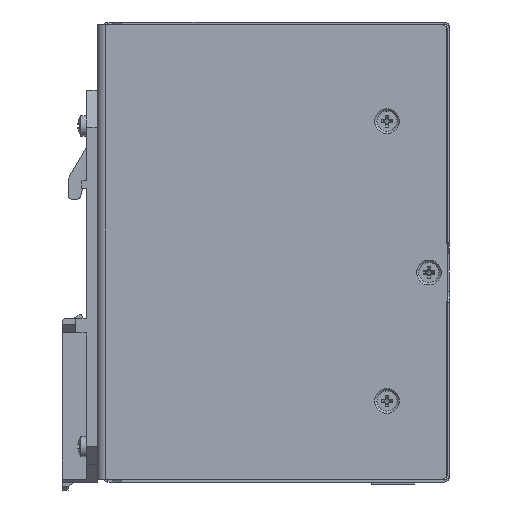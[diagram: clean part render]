
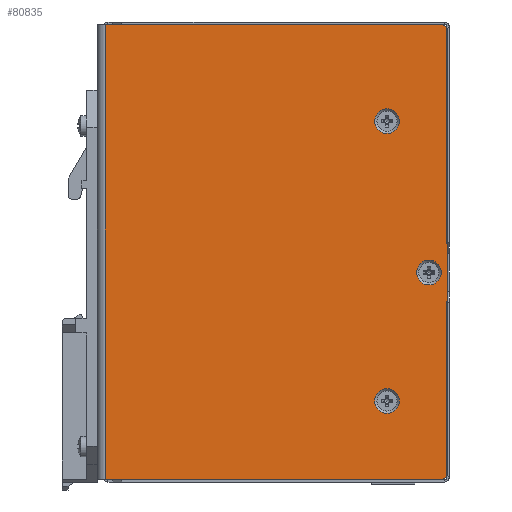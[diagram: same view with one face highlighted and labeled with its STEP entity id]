
A CAD part, left-side view. The second image highlights one B-rep face of the part: STEP entity #80835.
In plain terms, the highlighted planar face has unit normal (-1, 0, 0).
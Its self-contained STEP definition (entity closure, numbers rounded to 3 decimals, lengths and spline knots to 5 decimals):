
#1407=CIRCLE('',#86739,0.00152);
#1409=CIRCLE('',#86743,0.00152);
#1410=CIRCLE('',#86745,0.00336);
#1411=CIRCLE('',#86746,0.00336);
#1412=CIRCLE('',#86747,0.00336);
#23640=ORIENTED_EDGE('',*,*,#34806,.T.);
#23641=ORIENTED_EDGE('',*,*,#34807,.T.);
#23642=ORIENTED_EDGE('',*,*,#34808,.T.);
#23643=ORIENTED_EDGE('',*,*,#34803,.F.);
#23644=ORIENTED_EDGE('',*,*,#34805,.F.);
#23645=ORIENTED_EDGE('',*,*,#34793,.F.);
#23646=ORIENTED_EDGE('',*,*,#34809,.F.);
#23647=ORIENTED_EDGE('',*,*,#34810,.F.);
#23648=ORIENTED_EDGE('',*,*,#34811,.T.);
#23649=ORIENTED_EDGE('',*,*,#34797,.F.);
#23650=ORIENTED_EDGE('',*,*,#34800,.F.);
#34793=EDGE_CURVE('',#42251,#42249,#52810,.T.);
#34797=EDGE_CURVE('',#42255,#42253,#52814,.F.);
#34800=EDGE_CURVE('',#42257,#42255,#1407,.F.);
#34803=EDGE_CURVE('',#42259,#42257,#52818,.F.);
#34805=EDGE_CURVE('',#42249,#42259,#1409,.F.);
#34806=EDGE_CURVE('',#42260,#42260,#1410,.T.);
#34807=EDGE_CURVE('',#42261,#42261,#1411,.T.);
#34808=EDGE_CURVE('',#42262,#42262,#1412,.T.);
#34809=EDGE_CURVE('',#42263,#42251,#52819,.F.);
#34810=EDGE_CURVE('',#42264,#42263,#52820,.F.);
#34811=EDGE_CURVE('',#42264,#42253,#52821,.T.);
#42249=VERTEX_POINT('',#130338);
#42251=VERTEX_POINT('',#130342);
#42253=VERTEX_POINT('',#130347);
#42255=VERTEX_POINT('',#130351);
#42257=VERTEX_POINT('',#130357);
#42259=VERTEX_POINT('',#130363);
#42260=VERTEX_POINT('',#130370);
#42261=VERTEX_POINT('',#130372);
#42262=VERTEX_POINT('',#130374);
#42263=VERTEX_POINT('',#130376);
#42264=VERTEX_POINT('',#130378);
#52810=LINE('',#130343,#63365);
#52814=LINE('',#130352,#63369);
#52818=LINE('',#130364,#63373);
#52819=LINE('',#130375,#63374);
#52820=LINE('',#130377,#63375);
#52821=LINE('',#130379,#63376);
#63365=VECTOR('',#105992,1.);
#63369=VECTOR('',#105998,1.);
#63373=VECTOR('',#106010,1.);
#63374=VECTOR('',#106025,1.);
#63375=VECTOR('',#106026,1.);
#63376=VECTOR('',#106027,1.);
#68362=EDGE_LOOP('',(#23640));
#68363=EDGE_LOOP('',(#23641));
#68364=EDGE_LOOP('',(#23642));
#68365=EDGE_LOOP('',(#23643,#23644,#23645,#23646,#23647,#23648,#23649,#23650));
#73364=FACE_BOUND('',#68362,.T.);
#73365=FACE_BOUND('',#68363,.T.);
#73366=FACE_BOUND('',#68364,.T.);
#73367=FACE_BOUND('',#68365,.T.);
#76983=PLANE('',#86744);
#80835=ADVANCED_FACE('',(#73364,#73365,#73366,#73367),#76983,.T.);
#86739=AXIS2_PLACEMENT_3D('',#130358,#106004,#106005);
#86743=AXIS2_PLACEMENT_3D('',#130367,#106015,#106016);
#86744=AXIS2_PLACEMENT_3D('',#130368,#106017,#106018);
#86745=AXIS2_PLACEMENT_3D('',#130369,#106019,#106020);
#86746=AXIS2_PLACEMENT_3D('',#130371,#106021,#106022);
#86747=AXIS2_PLACEMENT_3D('',#130373,#106023,#106024);
#105992=DIRECTION('',(0.,-1.,0.));
#105998=DIRECTION('',(0.,-1.,0.));
#106004=DIRECTION('',(-1.,0.,0.));
#106005=DIRECTION('',(0.,-1.,0.));
#106010=DIRECTION('',(0.,0.,1.));
#106015=DIRECTION('',(-1.,0.,0.));
#106016=DIRECTION('',(0.,-1.,0.));
#106017=DIRECTION('',(-1.,0.,0.));
#106018=DIRECTION('',(0.,-1.,0.));
#106019=DIRECTION('',(1.,0.,0.));
#106020=DIRECTION('',(0.,-1.,0.));
#106021=DIRECTION('',(1.,0.,0.));
#106022=DIRECTION('',(0.,-1.,0.));
#106023=DIRECTION('',(1.,0.,0.));
#106024=DIRECTION('',(0.,-1.,0.));
#106025=DIRECTION('',(0.,1.,0.));
#106026=DIRECTION('',(0.,0.,-1.));
#106027=DIRECTION('',(0.,-1.,0.));
#130338=CARTESIAN_POINT('',(-0.06134,-0.02094,0.06198));
#130342=CARTESIAN_POINT('',(-0.06134,0.07068,0.06198));
#130343=CARTESIAN_POINT('',(-0.06134,0.0244,0.06198));
#130347=CARTESIAN_POINT('',(-0.06134,0.07068,-0.06198));
#130351=CARTESIAN_POINT('',(-0.06134,-0.02094,-0.06198));
#130352=CARTESIAN_POINT('',(-0.06134,0.0244,-0.06198));
#130357=CARTESIAN_POINT('',(-0.06134,-0.02247,-0.06045));
#130358=CARTESIAN_POINT('',(-0.06134,-0.02094,-0.06045));
#130363=CARTESIAN_POINT('',(-0.06134,-0.02247,0.06045));
#130364=CARTESIAN_POINT('',(-0.06134,-0.02247,0.));
#130367=CARTESIAN_POINT('',(-0.06134,-0.02094,0.06045));
#130368=CARTESIAN_POINT('',(-0.06134,0.0244,0.));
#130369=CARTESIAN_POINT('',(-0.06134,-0.00595,0.03569));
#130370=CARTESIAN_POINT('',(-0.06134,-0.00931,0.03569));
#130371=CARTESIAN_POINT('',(-0.06134,-0.01739,-0.00559));
#130372=CARTESIAN_POINT('',(-0.06134,-0.02075,-0.00559));
#130373=CARTESIAN_POINT('',(-0.06134,-0.00595,-0.04064));
#130374=CARTESIAN_POINT('',(-0.06134,-0.00931,-0.04064));
#130375=CARTESIAN_POINT('',(-0.06134,0.07068,0.06198));
#130376=CARTESIAN_POINT('',(-0.06134,0.07085,0.06198));
#130377=CARTESIAN_POINT('',(-0.06134,0.07085,0.));
#130378=CARTESIAN_POINT('',(-0.06134,0.07085,-0.06198));
#130379=CARTESIAN_POINT('',(-0.06134,0.0244,-0.06198));
